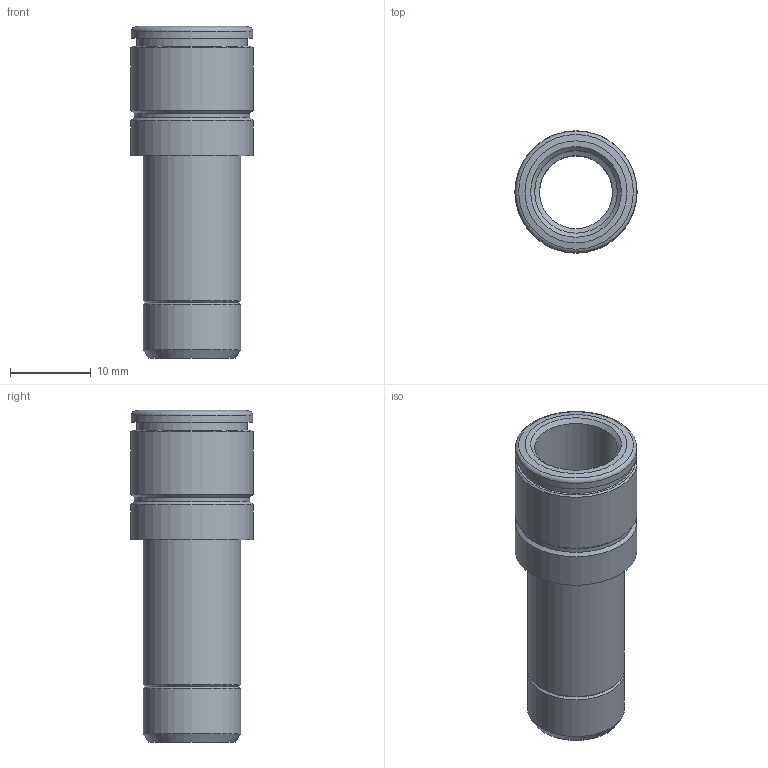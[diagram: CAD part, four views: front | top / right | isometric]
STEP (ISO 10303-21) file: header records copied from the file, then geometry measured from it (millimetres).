
FILE_DESCRIPTION(('Bauteilbeschreibung','HiCAD-Model','HiCAD-STEP-TRANSLATION','Bauteilbeschreibung'),'2;1');
FILE_NAME('B:/ABGLEICH/ZEICHNUNGEN/STEP FÜR INTERNET/STEP/IPSO 08/200817_IPSO_08_12-10.STP','2012-03-14T10:25:37+00:00',('Konstrukteur'),('Konstrukteur Firma GmbH'),' HiCAD neXt 2008, Step 3.1.1401.2J ','HiCAD neXt 2008','confidential');
FILE_SCHEMA(('AUTOMOTIVE_DESIGN { 1 2 10303 214 0 1 1 1 }'));
Length unit declared in the file: millimetre
Products named in the file (3): A00817_IPSO_08_12_10; R200817_N; DR10_N
Assembly tree (2 placements, depth 2):
  A00817_IPSO_08_12_10
    R200817_N
    DR10_N
Bounding box: 15.1 x 15.1 x 41 mm (x, y, z)
Volume: 2378.5 mm3; surface area: 3887.3 mm2
Topology: 2 solids, 2 shells, 35 faces, 64 edges, 36 vertices
Faces by surface type: cone 14, cylinder 13, plane 7, torus 1
Full cylindrical faces by diameter (mm): 9 x1, 10.2 x2, 12 x2, 12.3 x1, 13 x1, 13.6 x1, 13.7 x1, 14.3 x1, 15 x1, 15.1 x2
Entity records: 963 total; most frequent: DIRECTION 148, CARTESIAN_POINT 109, AXIS2_PLACEMENT_3D 74, EDGE_LOOP 70, ORIENTED_EDGE 70, COLOUR_RGB 37, PRESENTATION_STYLE_ASSIGNMENT 37, ADVANCED_FACE 35
